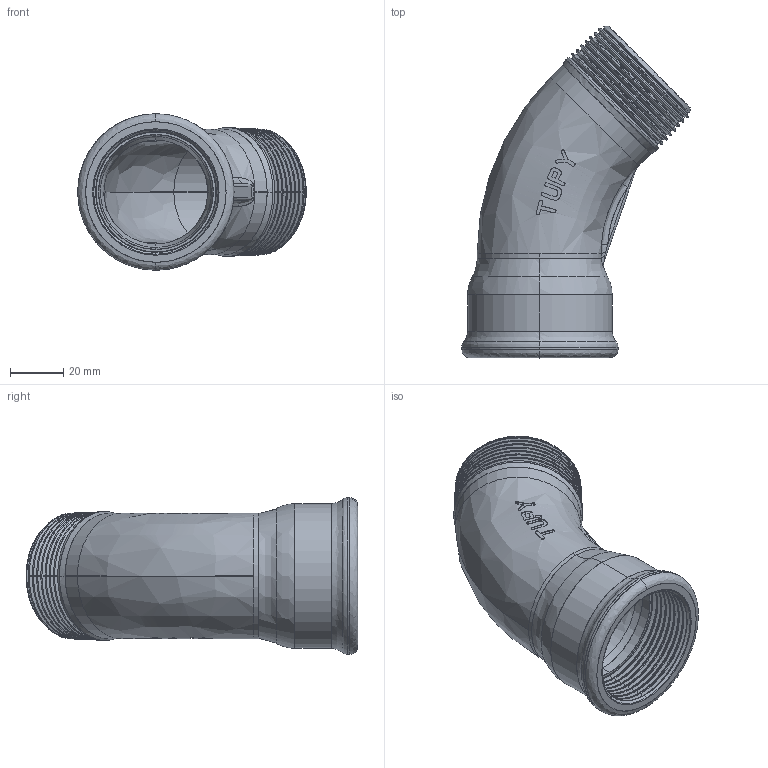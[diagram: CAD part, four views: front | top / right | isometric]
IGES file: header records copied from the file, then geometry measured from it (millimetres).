
Start section: SolidWorks IGES file using analytic representation for surfaces
Global section: file name: C:\Users\Joel Rosa\Desktop\Tubulação\12-27-OK\12-27-009.IGS; native system: SolidWorks 2011; preprocessor: SolidWorks 2011; author: Joel Rosa; date: 131025.223845; units: millimetre
Bounding box: 85.66 x 124.36 x 58.6 mm (x, y, z)
Surface area: 39934.7 mm2 (no closed solid volume)
Topology: 0 solids, 0 shells, 323 faces, 2932 edges, 2932 vertices
Faces by surface type: bspline 232, revolution 91
